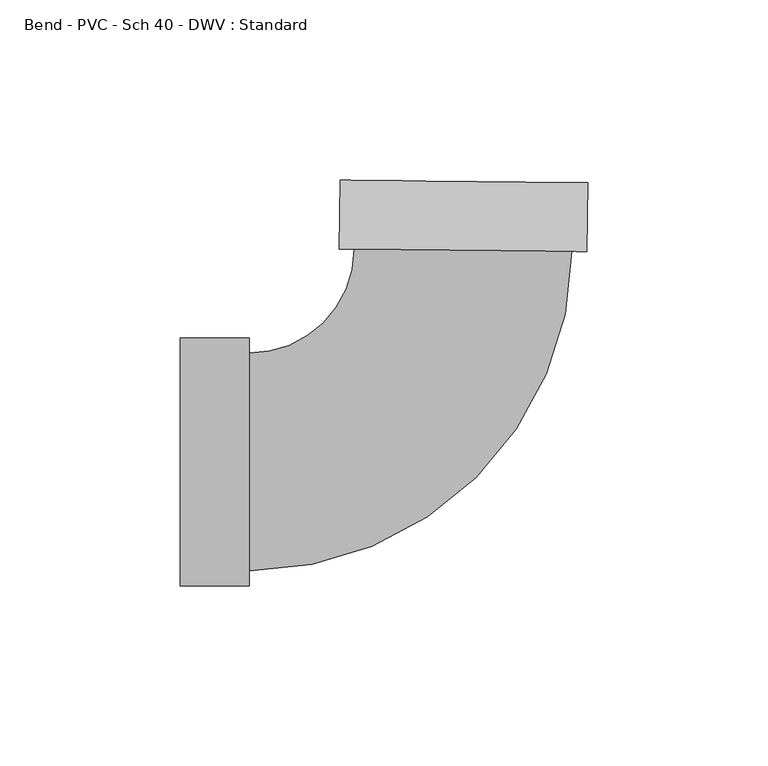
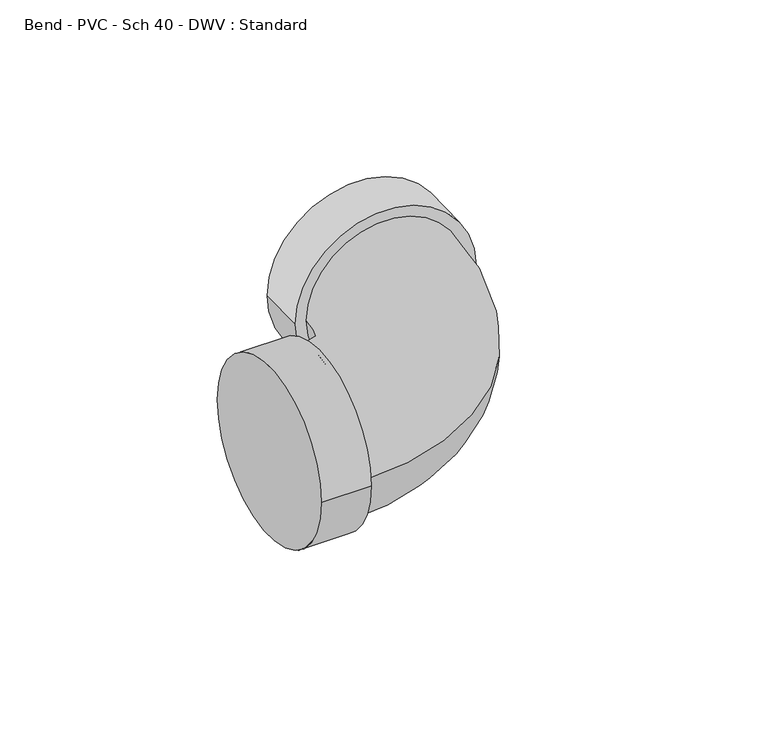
"""IFC4 building model written with IfcOpenShell, lengths in millimetres: pipe fitting geometry, Bend - PVC - Sch 40 - DWV : Standard."""

from ifc_helpers import new_model, si_unit, point, frame, origin, place, context, project, spatial, circle_curve, ellipse_curve, trimmed, source, transform, mapped, element, save
from ifc_brep_helpers import plane_surface, cylinder_surface, revolved_surface, advanced_brep


def bend_pvc_sch_40_dwv_standard_52106326(model_context):
    return source(origin(), model_context, "Body", "AdvancedBrep", [
        advanced_brep(
        [(-77.8002, -34.3154, 0.0), (-77.8002, 34.3154, 0.0), (-58.7502, -34.3154, 0.0), (-58.7502, 34.3154, 0.0), (-58.7502, -30.1625, 0.0), (-58.7502, 30.1625, 0.0), (-29.5489157, 59.0611885, 0.0), (30.7728118, 58.4328372, 0.0), (34.9254865, 58.3895802, 0.0), (-33.7015904, 59.1044455, 0.0), (35.1239132, 77.4385467, 0.0), (-33.5031636, 78.1534121, 0.0)],
        [
            (0, 1, circle_curve(frame((-77.8002, 0.0, 0.0), z_axis=(-1.0, 0.0, 0.0), x_axis=(0.0, 1.0, 0.0)), 34.3154)),
            (1, 0, circle_curve(frame((-77.8002, 0.0, 0.0), z_axis=(-1.0, 0.0, 0.0), x_axis=(0.0, 1.0, 0.0)), 34.3154)),
            (2, 3, circle_curve(frame((-58.7502, 0.0, 0.0), z_axis=(1.0, 0.0, 0.0), x_axis=(0.0, 1.0, 0.0)), 34.3154)),
            (3, 2, circle_curve(frame((-58.7502, 0.0, 0.0), z_axis=(1.0, 0.0, 0.0), x_axis=(0.0, 1.0, 0.0)), 34.3154)),
            (4, 5, circle_curve(frame((-58.7502, 0.0, 0.0), z_axis=(-1.0, 0.0, 0.0), x_axis=(0.0, 1.0, 0.0)), 30.1625)),
            (5, 4, circle_curve(frame((-58.7502, 0.0, 0.0), z_axis=(-1.0, 0.0, 0.0), x_axis=(0.0, 1.0, 0.0)), 30.1625)),
            (0, 2),
            (3, 1),
            (6, 5, circle_curve(frame((-58.7502, 59.3653686, 0.0), z_axis=(0.0, 0.0, -1.0), x_axis=(0.0, -1.0, 0.0)), 29.2028686)),
            (4, 7, circle_curve(frame((-58.7502, 59.3653686, 0.0), z_axis=(0.0, 0.0, 1.0), x_axis=(0.0, -1.0, 0.0)), 89.5278686)),
            (7, 6, circle_curve(frame((0.6119481, 58.7470129, 0.0), z_axis=(-0.010416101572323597, -0.9999457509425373, 0.0), x_axis=(-0.9999457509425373, 0.010416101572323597, 0.0)), 30.1625)),
            (6, 7, circle_curve(frame((0.6119481, 58.7470129, 0.0), z_axis=(-0.010416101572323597, -0.9999457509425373, 0.0), x_axis=(-0.9999457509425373, 0.010416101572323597, 0.0)), 30.1625)),
            (8, 9, circle_curve(frame((0.6119481, 58.7470129, 0.0), z_axis=(-0.010416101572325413, -0.9999457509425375, 0.0), x_axis=(-0.9999457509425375, 0.010416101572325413, 0.0)), 34.3154)),
            (9, 8, circle_curve(frame((0.6119481, 58.7470129, 0.0), z_axis=(-0.010416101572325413, -0.9999457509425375, 0.0), x_axis=(-0.9999457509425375, 0.010416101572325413, 0.0)), 34.3154)),
            (10, 11, circle_curve(frame((0.8103748, 77.7959794, 0.0), z_axis=(0.010416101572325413, 0.9999457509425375, 0.0), x_axis=(-0.9999457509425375, 0.010416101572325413, 0.0)), 34.3154)),
            (11, 10, circle_curve(frame((0.8103748, 77.7959794, 0.0), z_axis=(0.010416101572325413, 0.9999457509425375, 0.0), x_axis=(-0.9999457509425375, 0.010416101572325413, 0.0)), 34.3154)),
            (8, 10),
            (11, 9),
        ],
        [
            plane_surface(frame((-77.8002, 0.0, 0.0), z_axis=(-1.0, 0.0, 0.0), x_axis=(0.0, 0.0, 1.0))),
            plane_surface(frame((-58.7502, 0.0, 0.0), z_axis=(1.0, 0.0, 0.0), x_axis=(0.0, 0.0, 1.0))),
            cylinder_surface(frame((-77.8002, 0.0, 0.0), z_axis=(-1.0, 0.0, 0.0), x_axis=(0.0, 1.0, 0.0)), 34.3154),
            revolved_surface(trimmed(ellipse_curve(frame((-58.7502, 0.0, 0.0), z_axis=(-1.0, 0.0, 0.0), x_axis=(0.0, 1.0, 0.0)), 30.1625, 30.1625), [point((-58.7502, -30.1625, 0.0))], [point((-58.7502, 30.1625, 0.0))], True, "CARTESIAN"), (-58.7502, 59.3653686, 0.0), (0.0, 0.0, 1.0)),
            revolved_surface(trimmed(ellipse_curve(frame((-58.7502, 0.0, 0.0), z_axis=(-1.0, 0.0, 0.0), x_axis=(0.0, 1.0, 0.0)), 30.1625, 30.1625), [point((-58.7502, 30.1625, 0.0))], [point((-58.7502, -30.1625, 0.0))], True, "CARTESIAN"), (-58.7502, 59.3653686, 0.0), (0.0, 0.0, 1.0)),
            plane_surface(frame((0.6119481, 58.7470129, 0.0), z_axis=(-0.010416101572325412, -0.9999457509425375, 0.0), x_axis=(0.0, 0.0, 1.0))),
            plane_surface(frame((0.8103748, 77.7959794, 0.0), z_axis=(0.010416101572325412, 0.9999457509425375, 0.0), x_axis=(0.0, 0.0, 1.0))),
            cylinder_surface(frame((0.6119481, 58.7470129, 0.0), z_axis=(-0.010416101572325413, -0.9999457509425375, 0.0), x_axis=(-0.9999457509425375, 0.010416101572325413, 0.0)), 34.3154),
        ],
        [
            (0, [[1, 2]]),
            (1, [[3, 4], [5, 6]]),
            (2, [[-1, 7, -4, 8]]),
            (2, [[-2, -8, -3, -7]]),
            (3, [[9, -5, 10, 11]]),
            (4, [[-9, 12, -10, -6]]),
            (5, [[13, 14], [-11, -12]]),
            (6, [[15, 16]]),
            (7, [[-13, 17, -16, 18]]),
            (7, [[-14, -18, -15, -17]]),
        ],
    ),
    ])


if __name__ == "__main__":
    model = new_model("IFC4")
    model_context = context("Model", 3, world=origin())
    ifc_project = project(units=[si_unit("LENGTHUNIT", "METRE", prefix="MILLI")], contexts=[model_context])
    site = spatial("IfcSite", under=ifc_project)
    building = spatial("IfcBuilding", under=site)
    placement = place(None, origin())
    bend_pvc_sch_40_dwv_standard_shape = bend_pvc_sch_40_dwv_standard_52106326(model_context)
    element("IfcPipeFitting", 1, ObjectType="Bend - PVC - Sch 40 - DWV : Standard", at=placement, inside=building, context=model_context, shape_type="MappedRepresentation", body=[
        mapped(bend_pvc_sch_40_dwv_standard_shape, transform((0.0, 0.0, 0.0), x_axis=(1.0, 0.0, 0.0), y_axis=(0.0, 1.0, 0.0), z_axis=(0.0, 0.0, 1.0))),
    ])
    save(model, "model.ifc")
